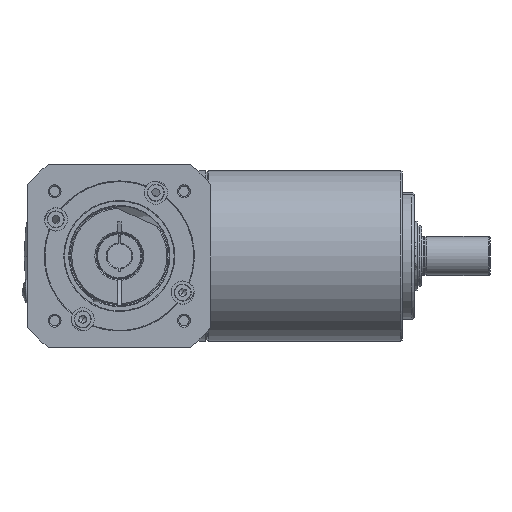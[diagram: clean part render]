
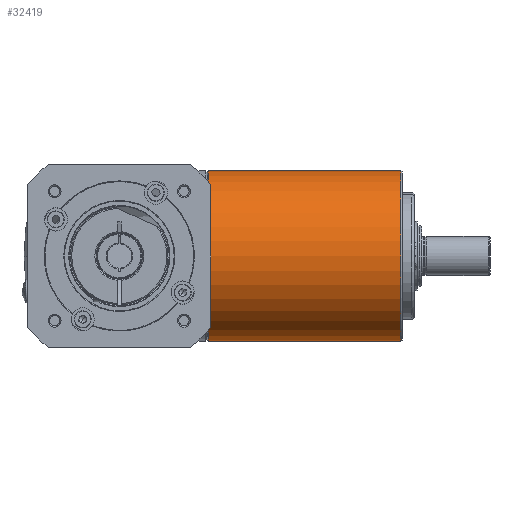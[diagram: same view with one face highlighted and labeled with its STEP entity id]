
A CAD part, front view. The second image highlights one B-rep face of the part: STEP entity #32419.
In plain terms, the highlighted cylindrical face has radius 35 mm (diameter 70 mm), a partial arc.
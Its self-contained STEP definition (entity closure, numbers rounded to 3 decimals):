
#2099 = ORIENTED_EDGE ( 'NONE', *, *, #33175, .T. ) ;
#2356 = CARTESIAN_POINT ( 'NONE',  ( 115.5, 0., 0. ) ) ;
#5847 = CARTESIAN_POINT ( 'NONE',  ( 134.464, 0., 0. ) ) ;
#6254 = ORIENTED_EDGE ( 'NONE', *, *, #39072, .F. ) ;
#8604 = DIRECTION ( 'NONE',  ( 0., 0., -1. ) ) ;
#9467 = CARTESIAN_POINT ( 'NONE',  ( 115.5, 0., 35. ) ) ;
#9498 = VERTEX_POINT ( 'NONE', #19608 ) ;
#9689 = VERTEX_POINT ( 'NONE', #11941 ) ;
#10932 = CIRCLE ( 'NONE', #38727, 35. ) ;
#11053 = ORIENTED_EDGE ( 'NONE', *, *, #31165, .T. ) ;
#11941 = CARTESIAN_POINT ( 'NONE',  ( 36.5, 0., -35. ) ) ;
#12397 = DIRECTION ( 'NONE',  ( 0., 0., 1. ) ) ;
#12485 = DIRECTION ( 'NONE',  ( 1., 0., 0. ) ) ;
#12585 = AXIS2_PLACEMENT_3D ( 'NONE', #5847, #19806, #16589 ) ;
#16318 = CARTESIAN_POINT ( 'NONE',  ( 134.464, 0., 35. ) ) ;
#16363 = FACE_OUTER_BOUND ( 'NONE', #18058, .T. ) ;
#16589 = DIRECTION ( 'NONE',  ( 0., 0., -1. ) ) ;
#17845 = VERTEX_POINT ( 'NONE', #9467 ) ;
#18058 = EDGE_LOOP ( 'NONE', ( #6254, #2099, #27082, #11053 ) ) ;
#19608 = CARTESIAN_POINT ( 'NONE',  ( 36.5, 0., 35. ) ) ;
#19806 = DIRECTION ( 'NONE',  ( 1., 0., 0. ) ) ;
#24727 = VECTOR ( 'NONE', #37107, 1000. ) ;
#27082 = ORIENTED_EDGE ( 'NONE', *, *, #41840, .T. ) ;
#27933 = VERTEX_POINT ( 'NONE', #37736 ) ;
#28042 = AXIS2_PLACEMENT_3D ( 'NONE', #39955, #12485, #8604 ) ;
#29373 = DIRECTION ( 'NONE',  ( -1., 0., 0. ) ) ;
#30986 = DIRECTION ( 'NONE',  ( 1., 0., 0. ) ) ;
#31165 = EDGE_CURVE ( 'NONE', #27933, #17845, #10932, .T. ) ;
#32419 = ADVANCED_FACE ( 'NONE', ( #16363 ), #44056, .T. ) ;
#33175 = EDGE_CURVE ( 'NONE', #9498, #9689, #33866, .T. ) ;
#33866 = CIRCLE ( 'NONE', #28042, 35. ) ;
#36196 = LINE ( 'NONE', #16318, #24727 ) ;
#37107 = DIRECTION ( 'NONE',  ( 1., 0., 0. ) ) ;
#37736 = CARTESIAN_POINT ( 'NONE',  ( 115.5, 0., -35. ) ) ;
#38080 = LINE ( 'NONE', #44971, #41752 ) ;
#38727 = AXIS2_PLACEMENT_3D ( 'NONE', #2356, #29373, #12397 ) ;
#39072 = EDGE_CURVE ( 'NONE', #9498, #17845, #36196, .T. ) ;
#39955 = CARTESIAN_POINT ( 'NONE',  ( 36.5, 0., 0. ) ) ;
#41752 = VECTOR ( 'NONE', #30986, 1000. ) ;
#41840 = EDGE_CURVE ( 'NONE', #9689, #27933, #38080, .T. ) ;
#44056 = CYLINDRICAL_SURFACE ( 'NONE', #12585, 35. ) ;
#44971 = CARTESIAN_POINT ( 'NONE',  ( 134.464, 0., -35. ) ) ;
